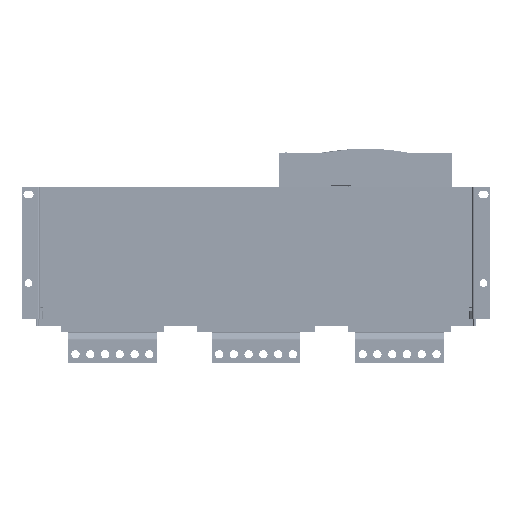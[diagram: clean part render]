
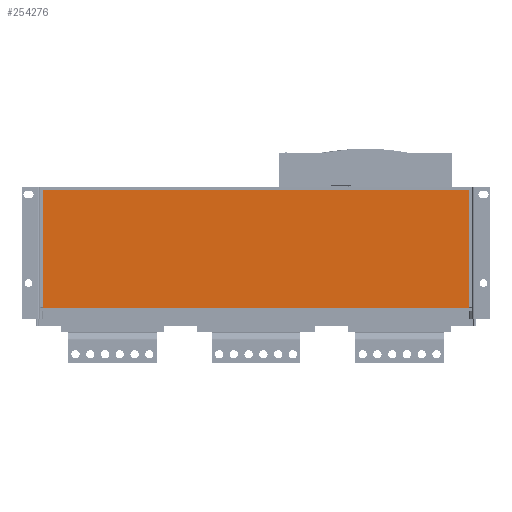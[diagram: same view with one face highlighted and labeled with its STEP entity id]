
A CAD part, front view. The second image highlights one B-rep face of the part: STEP entity #254276.
In plain terms, the highlighted planar face has unit normal (0, -1, 0).
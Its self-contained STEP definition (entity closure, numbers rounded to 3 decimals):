
#3955 = CARTESIAN_POINT ( 'NONE',  ( 617.615, 465.825, 801.621 ) ) ;
#4553 = ORIENTED_EDGE ( 'NONE', *, *, #172932, .T. ) ;
#19042 = EDGE_CURVE ( 'NONE', #123813, #92306, #269861, .T. ) ;
#19126 = VERTEX_POINT ( 'NONE', #160992 ) ;
#22062 = VECTOR ( 'NONE', #57235, 1000. ) ;
#24605 = EDGE_CURVE ( 'NONE', #231807, #146201, #278464, .T. ) ;
#24722 = CARTESIAN_POINT ( 'NONE',  ( 623.615, 465.825, 807.621 ) ) ;
#24890 = DIRECTION ( 'NONE',  ( 0., 0., 1. ) ) ;
#31863 = EDGE_CURVE ( 'NONE', #251269, #100329, #101399, .T. ) ;
#34684 = VECTOR ( 'NONE', #164728, 1000. ) ;
#34872 = DIRECTION ( 'NONE',  ( -1., 0., 0. ) ) ;
#35646 = EDGE_CURVE ( 'NONE', #203543, #19126, #205204, .T. ) ;
#36549 = CARTESIAN_POINT ( 'NONE',  ( 617.615, 465.825, 1005.621 ) ) ;
#47600 = CARTESIAN_POINT ( 'NONE',  ( -108.385, 465.825, 807.621 ) ) ;
#47606 = DIRECTION ( 'NONE',  ( 0., 0., -1. ) ) ;
#56890 = DIRECTION ( 'NONE',  ( 1., 0., 0. ) ) ;
#56935 = CARTESIAN_POINT ( 'NONE',  ( 623.615, 465.825, 1005.621 ) ) ;
#57235 = DIRECTION ( 'NONE',  ( 0., 0., 1. ) ) ;
#58476 = ORIENTED_EDGE ( 'NONE', *, *, #242173, .F. ) ;
#58883 = VECTOR ( 'NONE', #190346, 1000. ) ;
#64209 = VECTOR ( 'NONE', #231594, 1000. ) ;
#66159 = VERTEX_POINT ( 'NONE', #121203 ) ;
#69203 = LINE ( 'NONE', #251650, #102909 ) ;
#81925 = VECTOR ( 'NONE', #276665, 1000. ) ;
#83745 = VERTEX_POINT ( 'NONE', #159728 ) ;
#84748 = DIRECTION ( 'NONE',  ( -1., 0., 0. ) ) ;
#84937 = FACE_OUTER_BOUND ( 'NONE', #303798, .T. ) ;
#91378 = VECTOR ( 'NONE', #47606, 1000. ) ;
#92306 = VERTEX_POINT ( 'NONE', #199058 ) ;
#92566 = LINE ( 'NONE', #56935, #295303 ) ;
#93539 = EDGE_CURVE ( 'NONE', #83745, #123813, #92566, .T. ) ;
#93868 = VECTOR ( 'NONE', #24890, 1000. ) ;
#94889 = CARTESIAN_POINT ( 'NONE',  ( -102.385, 465.825, 801.621 ) ) ;
#95584 = CARTESIAN_POINT ( 'NONE',  ( 617.615, 465.825, 807.621 ) ) ;
#100329 = VERTEX_POINT ( 'NONE', #95584 ) ;
#101399 = LINE ( 'NONE', #3955, #93868 ) ;
#102424 = LINE ( 'NONE', #142691, #34684 ) ;
#102909 = VECTOR ( 'NONE', #84748, 1000. ) ;
#107207 = CARTESIAN_POINT ( 'NONE',  ( 257.615, 465.825, 1011.621 ) ) ;
#107551 = CARTESIAN_POINT ( 'NONE',  ( 617.615, 465.825, 1011.621 ) ) ;
#110770 = ORIENTED_EDGE ( 'NONE', *, *, #31863, .T. ) ;
#111089 = EDGE_CURVE ( 'NONE', #19126, #123097, #155266, .T. ) ;
#118816 = VECTOR ( 'NONE', #291368, 1000. ) ;
#121203 = CARTESIAN_POINT ( 'NONE',  ( -103.385, 465.825, 1005.621 ) ) ;
#123097 = VERTEX_POINT ( 'NONE', #178820 ) ;
#123813 = VERTEX_POINT ( 'NONE', #36549 ) ;
#128478 = VERTEX_POINT ( 'NONE', #145274 ) ;
#135509 = ORIENTED_EDGE ( 'NONE', *, *, #111089, .T. ) ;
#142691 = CARTESIAN_POINT ( 'NONE',  ( 257.615, 465.825, 1006.621 ) ) ;
#145274 = CARTESIAN_POINT ( 'NONE',  ( 618.615, 465.825, 807.621 ) ) ;
#146201 = VERTEX_POINT ( 'NONE', #296662 ) ;
#147138 = LINE ( 'NONE', #255598, #233592 ) ;
#149744 = LINE ( 'NONE', #199941, #22062 ) ;
#152383 = AXIS2_PLACEMENT_3D ( 'NONE', #107207, #200629, #56890 ) ;
#155266 = LINE ( 'NONE', #94889, #91378 ) ;
#159728 = CARTESIAN_POINT ( 'NONE',  ( 618.615, 465.825, 1005.621 ) ) ;
#160992 = CARTESIAN_POINT ( 'NONE',  ( -102.385, 465.825, 807.621 ) ) ;
#161585 = EDGE_CURVE ( 'NONE', #251269, #123097, #69203, .T. ) ;
#164728 = DIRECTION ( 'NONE',  ( 1., 0., 0. ) ) ;
#168264 = CARTESIAN_POINT ( 'NONE',  ( -103.385, 465.825, 807.621 ) ) ;
#172932 = EDGE_CURVE ( 'NONE', #146201, #66159, #147138, .T. ) ;
#177549 = PLANE ( 'NONE',  #152383 ) ;
#178820 = CARTESIAN_POINT ( 'NONE',  ( -102.385, 465.825, 806.621 ) ) ;
#183131 = EDGE_CURVE ( 'NONE', #83745, #128478, #272122, .T. ) ;
#187274 = ORIENTED_EDGE ( 'NONE', *, *, #19042, .T. ) ;
#190173 = LINE ( 'NONE', #24722, #118816 ) ;
#190346 = DIRECTION ( 'NONE',  ( 1., 0., 0. ) ) ;
#191051 = ORIENTED_EDGE ( 'NONE', *, *, #35646, .T. ) ;
#199058 = CARTESIAN_POINT ( 'NONE',  ( 617.615, 465.825, 1006.621 ) ) ;
#199941 = CARTESIAN_POINT ( 'NONE',  ( -103.385, 465.825, 1011.621 ) ) ;
#200629 = DIRECTION ( 'NONE',  ( 0., 1., 0. ) ) ;
#203543 = VERTEX_POINT ( 'NONE', #168264 ) ;
#205204 = LINE ( 'NONE', #47600, #58883 ) ;
#208118 = VECTOR ( 'NONE', #286289, 1000. ) ;
#209643 = CARTESIAN_POINT ( 'NONE',  ( 618.615, 465.825, 1011.621 ) ) ;
#217980 = CARTESIAN_POINT ( 'NONE',  ( -102.385, 465.825, 1006.621 ) ) ;
#230513 = ORIENTED_EDGE ( 'NONE', *, *, #93539, .T. ) ;
#231594 = DIRECTION ( 'NONE',  ( 0., 0., -1. ) ) ;
#231807 = VERTEX_POINT ( 'NONE', #217980 ) ;
#233592 = VECTOR ( 'NONE', #280771, 1000. ) ;
#242173 = EDGE_CURVE ( 'NONE', #231807, #92306, #102424, .T. ) ;
#247340 = ORIENTED_EDGE ( 'NONE', *, *, #250372, .F. ) ;
#249538 = CARTESIAN_POINT ( 'NONE',  ( -102.385, 465.825, 1011.621 ) ) ;
#250372 = EDGE_CURVE ( 'NONE', #203543, #66159, #149744, .T. ) ;
#251269 = VERTEX_POINT ( 'NONE', #270705 ) ;
#251650 = CARTESIAN_POINT ( 'NONE',  ( 257.615, 465.825, 806.621 ) ) ;
#254276 = ADVANCED_FACE ( 'NONE', ( #84937 ), #177549, .F. ) ;
#255598 = CARTESIAN_POINT ( 'NONE',  ( -108.385, 465.825, 1005.621 ) ) ;
#255768 = ORIENTED_EDGE ( 'NONE', *, *, #183131, .F. ) ;
#260905 = EDGE_CURVE ( 'NONE', #100329, #128478, #190173, .T. ) ;
#264627 = ORIENTED_EDGE ( 'NONE', *, *, #260905, .T. ) ;
#265929 = ORIENTED_EDGE ( 'NONE', *, *, #161585, .F. ) ;
#269861 = LINE ( 'NONE', #107551, #81925 ) ;
#270705 = CARTESIAN_POINT ( 'NONE',  ( 617.615, 465.825, 806.621 ) ) ;
#272122 = LINE ( 'NONE', #209643, #208118 ) ;
#276665 = DIRECTION ( 'NONE',  ( 0., 0., 1. ) ) ;
#278464 = LINE ( 'NONE', #249538, #64209 ) ;
#280771 = DIRECTION ( 'NONE',  ( -1., 0., 0. ) ) ;
#281096 = ORIENTED_EDGE ( 'NONE', *, *, #24605, .T. ) ;
#286289 = DIRECTION ( 'NONE',  ( 0., 0., -1. ) ) ;
#291368 = DIRECTION ( 'NONE',  ( 1., 0., 0. ) ) ;
#295303 = VECTOR ( 'NONE', #34872, 1000. ) ;
#296662 = CARTESIAN_POINT ( 'NONE',  ( -102.385, 465.825, 1005.621 ) ) ;
#303798 = EDGE_LOOP ( 'NONE', ( #58476, #281096, #4553, #247340, #191051, #135509, #265929, #110770, #264627, #255768, #230513, #187274 ) ) ;
